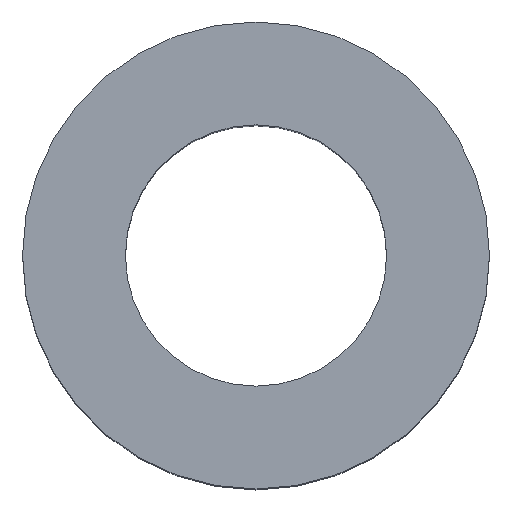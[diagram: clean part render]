
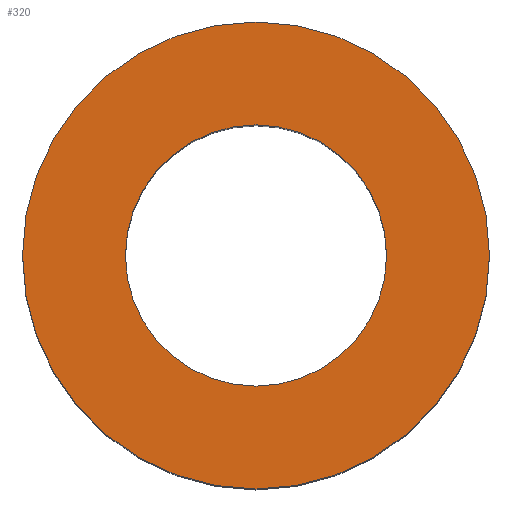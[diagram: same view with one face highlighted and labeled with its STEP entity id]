
A CAD part, top view. The second image highlights one B-rep face of the part: STEP entity #320.
In plain terms, the highlighted planar face has unit normal (0, 0, 1).
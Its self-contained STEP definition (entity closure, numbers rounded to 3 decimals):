
#43 = CYLINDRICAL_SURFACE('',#44,15.5);
#44 = AXIS2_PLACEMENT_3D('',#45,#46,#47);
#45 = CARTESIAN_POINT('',(0.,0.,65.9));
#46 = DIRECTION('',(-0.,-0.,-1.));
#47 = DIRECTION('',(1.,0.,0.));
#254 = CYLINDRICAL_SURFACE('',#255,27.71);
#255 = AXIS2_PLACEMENT_3D('',#256,#257,#258);
#256 = CARTESIAN_POINT('',(0.,0.,32.725));
#257 = DIRECTION('',(0.,0.,1.));
#258 = DIRECTION('',(1.,0.,-0.));
#271 = VERTEX_POINT('',#272);
#272 = CARTESIAN_POINT('',(27.71,0.,65.9));
#293 = EDGE_CURVE('',#271,#271,#294,.T.);
#294 = SURFACE_CURVE('',#295,(#300,#307),.PCURVE_S1.);
#295 = CIRCLE('',#296,27.71);
#296 = AXIS2_PLACEMENT_3D('',#297,#298,#299);
#297 = CARTESIAN_POINT('',(0.,0.,65.9));
#298 = DIRECTION('',(0.,0.,1.));
#299 = DIRECTION('',(1.,0.,-0.));
#300 = PCURVE('',#254,#301);
#301 = DEFINITIONAL_REPRESENTATION('',(#302),#306);
#302 = LINE('',#303,#304);
#303 = CARTESIAN_POINT('',(0.,33.175));
#304 = VECTOR('',#305,1.);
#305 = DIRECTION('',(1.,0.));
#306 = ( GEOMETRIC_REPRESENTATION_CONTEXT(2) 
PARAMETRIC_REPRESENTATION_CONTEXT() REPRESENTATION_CONTEXT('2D SPACE',''
  ) );
#307 = PCURVE('',#308,#313);
#308 = PLANE('',#309);
#309 = AXIS2_PLACEMENT_3D('',#310,#311,#312);
#310 = CARTESIAN_POINT('',(0.,0.,65.9));
#311 = DIRECTION('',(0.,0.,1.));
#312 = DIRECTION('',(1.,0.,-0.));
#313 = DEFINITIONAL_REPRESENTATION('',(#314),#318);
#314 = CIRCLE('',#315,27.71);
#315 = AXIS2_PLACEMENT_2D('',#316,#317);
#316 = CARTESIAN_POINT('',(0.,0.));
#317 = DIRECTION('',(1.,0.));
#318 = ( GEOMETRIC_REPRESENTATION_CONTEXT(2) 
PARAMETRIC_REPRESENTATION_CONTEXT() REPRESENTATION_CONTEXT('2D SPACE',''
  ) );
#320 = ADVANCED_FACE('',(#321,#324),#308,.T.);
#321 = FACE_BOUND('',#322,.T.);
#322 = EDGE_LOOP('',(#323));
#323 = ORIENTED_EDGE('',*,*,#293,.T.);
#324 = FACE_BOUND('',#325,.T.);
#325 = EDGE_LOOP('',(#326));
#326 = ORIENTED_EDGE('',*,*,#327,.F.);
#327 = EDGE_CURVE('',#328,#328,#330,.T.);
#328 = VERTEX_POINT('',#329);
#329 = CARTESIAN_POINT('',(15.5,0.,65.9));
#330 = SURFACE_CURVE('',#331,(#336,#343),.PCURVE_S1.);
#331 = CIRCLE('',#332,15.5);
#332 = AXIS2_PLACEMENT_3D('',#333,#334,#335);
#333 = CARTESIAN_POINT('',(0.,0.,65.9));
#334 = DIRECTION('',(0.,0.,1.));
#335 = DIRECTION('',(1.,0.,-0.));
#336 = PCURVE('',#308,#337);
#337 = DEFINITIONAL_REPRESENTATION('',(#338),#342);
#338 = CIRCLE('',#339,15.5);
#339 = AXIS2_PLACEMENT_2D('',#340,#341);
#340 = CARTESIAN_POINT('',(0.,0.));
#341 = DIRECTION('',(1.,0.));
#342 = ( GEOMETRIC_REPRESENTATION_CONTEXT(2) 
PARAMETRIC_REPRESENTATION_CONTEXT() REPRESENTATION_CONTEXT('2D SPACE',''
  ) );
#343 = PCURVE('',#43,#344);
#344 = DEFINITIONAL_REPRESENTATION('',(#345),#349);
#345 = LINE('',#346,#347);
#346 = CARTESIAN_POINT('',(-0.,0.));
#347 = VECTOR('',#348,1.);
#348 = DIRECTION('',(-1.,0.));
#349 = ( GEOMETRIC_REPRESENTATION_CONTEXT(2) 
PARAMETRIC_REPRESENTATION_CONTEXT() REPRESENTATION_CONTEXT('2D SPACE',''
  ) );
